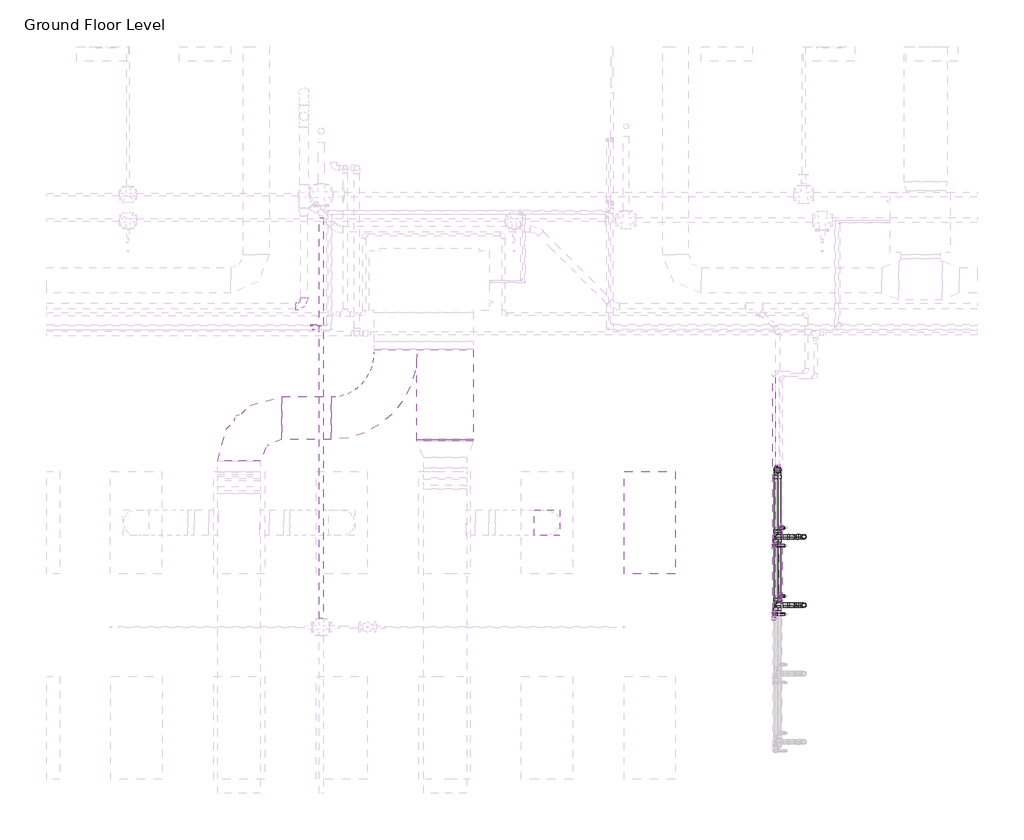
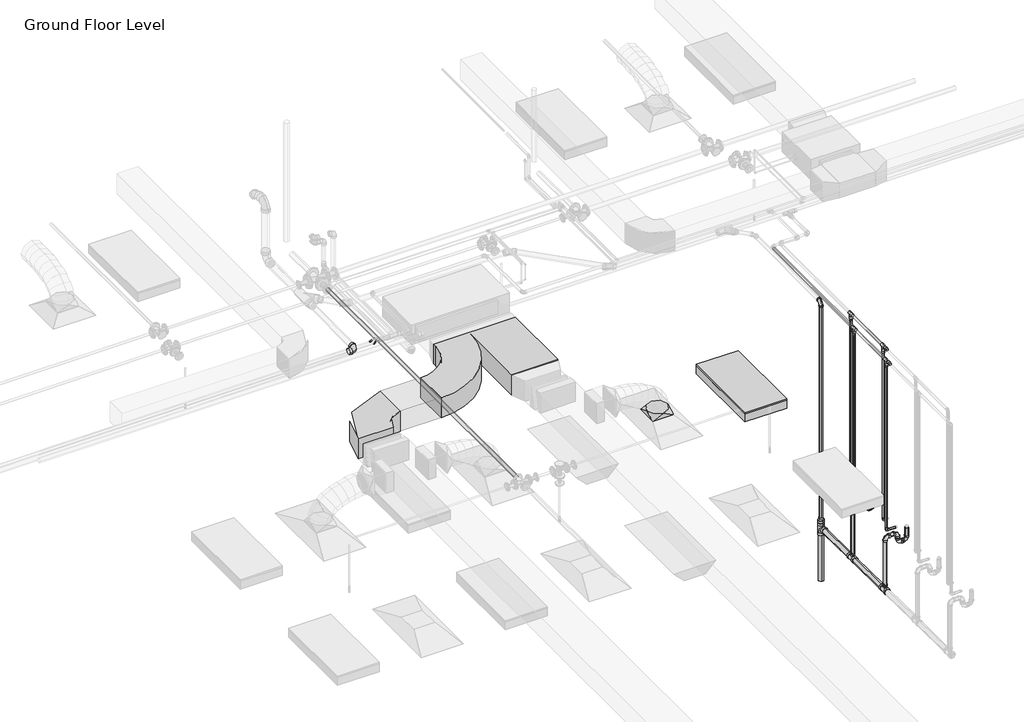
# One storey, part 51 of 74: 32 pipe fittings, 30 pipe segments, 3 duct fittings, 2 duct segments, 1 light fixture.
"""IFC4 building model written with IfcOpenShell, lengths in millimetres."""

from ifc_helpers import new_model, si_unit, point, frame, frame_2d, origin, place, context, project, spatial, polyline, circle_curve, trimmed, segment, composite_curve, outline, extrude, transform, mapped, element, save
from components import m_rectangular_elbow_radius_1_w_abe20169, m_rectangular_wye_smooth_radius_standard_737174da, m_rectangular_to_round_transition_angle_45_degree_641efff0, m_troffer_light_parabolic_rectangular1_0600x1200mm_4_lamp_86473d4a, m_bend_pvc_sch_40_dwv_standard_1e7bdcc1, m_bend_pvc_sch_40_dwv_standard_738aab8b, m_bend_pvc_sch_40_dwv_standard_33e831c1, m_elbow_generic_standard_2a704253, m_elbow_generic_standard_65e6739a, m_reducer_pvc_sch_40_dwv_standard_d6f2da47, m_tee_reducing_sanitary_pvc_sch_40_dwv_standard_21d2848c, m_tee_reducing_sanitary_pvc_sch_40_dwv_standard_b574f8c1, standard_b266ab3f, standard_72b35c3b, standard_e954f56a, standard_e5aa6446

model = new_model("IFC4")

# Units and contexts
model_context = context("Model", 3, world=origin())
ifc_project = project(units=[si_unit("LENGTHUNIT", "METRE", prefix="MILLI")], contexts=[model_context])

# Site, building, storey
site = spatial("IfcSite", under=ifc_project)
building = spatial("IfcBuilding", under=site)
storey = spatial("IfcBuildingStorey", under=building, Name="Ground Floor Level", Elevation=900.0)

# Duct fittings
placement = place(None, origin())
m_rectangular_elbow_radius_1_w_shape = m_rectangular_elbow_radius_1_w_abe20169(model_context)
element("IfcDuctFitting", 1, ObjectType="M_Rectangular Elbow - Radius : 1 W", at=placement, inside=storey, context=model_context, shape_type="MappedRepresentation", body=[
    mapped(m_rectangular_elbow_radius_1_w_shape, transform((-6939.6912607, 12459.4153535, 4107.1399598), x_axis=(-0.9999999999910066, 0.0, 4.2410714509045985e-06), y_axis=(0.0, -1.0, 0.0), z_axis=(4.2410714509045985e-06, 0.0, 0.9999999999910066))),
])
m_rectangular_wye_smooth_radius_standard_shape = m_rectangular_wye_smooth_radius_standard_737174da(model_context)
element("IfcDuctFitting", 2, ObjectType="M_Rectangular Wye - Smooth Radius : Standard", at=placement, inside=storey, context=model_context, shape_type="MappedRepresentation", body=[
    mapped(m_rectangular_wye_smooth_radius_standard_shape, transform((-4653.6910789, 12459.4153535, 4107.1353795), x_axis=(0.0, -0.9999999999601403, -8.928571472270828e-06), y_axis=(1.0, 0.0, 0.0), z_axis=(0.0, -8.928571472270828e-06, 0.9999999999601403))),
])
m_rectangular_to_round_transition_angle_45_degree_shape = m_rectangular_to_round_transition_angle_45_degree_641efff0(model_context)
element("IfcDuctFitting", 3, ObjectType="M_Rectangular to Round Transition - Angle : 45 Degree", at=placement, inside=storey, context=model_context, shape_type="MappedRepresentation", body=[
    mapped(m_rectangular_to_round_transition_angle_45_degree_shape, transform((-3337.2327605, 11235.2153534, 3751.6), x_axis=(0.0, 0.0, 1.0), y_axis=(-1.0, 0.0, 0.0), z_axis=(0.0, -1.0, 0.0))),
])

# Duct segments
element("IfcDuctSegment", 4, ObjectType="Radius Elbows / Taps", at=placement, inside=storey, context=model_context, shape_type="SweptSolid", body=[
    extrude(outline(polyline([(-4859.6910789, 12209.4153535), (-4197.6910789, 12209.4153535), (-4197.6910789, 12192.414605), (-4859.6910789, 12192.414605), (-4859.6910789, 12209.4153535)])), frame((0.0, 0.0, 3957.1331473), z_axis=(0.0, 0.0, 1.0), x_axis=(1.0, 0.0, 0.0)), (0.0, 0.0, 1.0), 300.0),
])
element("IfcDuctSegment", 5, ObjectType="Radius Elbows / Taps", at=placement, inside=storey, context=model_context, shape_type="SweptSolid", body=[
    extrude(outline(polyline([(-5859.6910789, 12709.4153535), (-5859.6910789, 12209.4153535), (-6439.6912607, 12209.4153535), (-6439.6912607, 12709.4153535), (-5859.6910789, 12709.4153535)])), frame((0.0, 0.0, 3957.1353795), z_axis=(0.0, 0.0, 1.0), x_axis=(1.0, 0.0, 0.0)), (0.0, 0.0, 1.0), 300.0),
])

# Light fixture
m_troffer_light_parabolic_rectangular1_0600x1200mm_4_lamp_shape = m_troffer_light_parabolic_rectangular1_0600x1200mm_4_lamp_86473d4a(model_context)
element("IfcLightFixture", 6, ObjectType="M_Troffer Light - Parabolic Rectangular1 : 0600x1200mm(4 Lamp) - 277V 2", at=placement, inside=storey, context=model_context, shape_type="MappedRepresentation", body=[
    mapped(m_troffer_light_parabolic_rectangular1_0600x1200mm_4_lamp_shape, transform((-2196.6986926, 11253.918855, 3650.0), x_axis=(0.0, 1.0, 0.0), y_axis=(-1.0, 0.0, 0.0), z_axis=(0.0, 0.0, 1.0))),
])

# Pipe fittings
m_bend_pvc_sch_40_dwv_standard_shape = m_bend_pvc_sch_40_dwv_standard_1e7bdcc1(model_context)
element("IfcPipeFitting", 7, ObjectType="M_Bend - PVC - Sch 40 - DWV : Standard", at=placement, inside=storey, context=model_context, shape_type="MappedRepresentation", body=[
    mapped(m_bend_pvc_sch_40_dwv_standard_shape, transform((-642.2357232, 11855.5503966, 4093.773994), x_axis=(0.0, 0.0, 1.0), y_axis=(0.0, 1.0, 0.0), z_axis=(-1.0, 0.0, 0.0))),
])
m_bend_pvc_sch_40_dwv_standard_2_shape = m_bend_pvc_sch_40_dwv_standard_738aab8b(model_context)
element("IfcPipeFitting", 8, ObjectType="M_Bend - PVC - Sch 40 - DWV : Standard", at=placement, inside=storey, context=model_context, shape_type="MappedRepresentation", body=[
    mapped(m_bend_pvc_sch_40_dwv_standard_2_shape, transform((-463.6645494, 10271.1979139, 1370.0), x_axis=(-1.0, 0.0, 0.0), y_axis=(0.0, 0.0, 1.0), z_axis=(0.0, 1.0, 0.0))),
])
element("IfcPipeFitting", 9, ObjectType="M_Bend - PVC - Sch 40 - DWV : Standard", at=placement, inside=storey, context=model_context, shape_type="MappedRepresentation", body=[
    mapped(m_bend_pvc_sch_40_dwv_standard_2_shape, transform((-463.6645494, 10271.1979139, 1510.0), x_axis=(0.0, 0.0, 1.0), y_axis=(-1.0, 0.0, 0.0), z_axis=(0.0, -1.0, 0.0))),
])
element("IfcPipeFitting", 10, ObjectType="M_Bend - PVC - Sch 40 - DWV : Standard", at=placement, inside=storey, context=model_context, shape_type="MappedRepresentation", body=[
    mapped(m_bend_pvc_sch_40_dwv_standard_2_shape, transform((-463.6645494, 11071.1979139, 1370.0), x_axis=(-1.0, 0.0, 0.0), y_axis=(0.0, 0.0, 1.0), z_axis=(0.0, 1.0, 0.0))),
])
element("IfcPipeFitting", 11, ObjectType="M_Bend - PVC - Sch 40 - DWV : Standard", at=placement, inside=storey, context=model_context, shape_type="MappedRepresentation", body=[
    mapped(m_bend_pvc_sch_40_dwv_standard_2_shape, transform((-463.6645494, 11071.1979139, 1510.0), x_axis=(0.0, 0.0, 1.0), y_axis=(-1.0, 0.0, 0.0), z_axis=(0.0, -1.0, 0.0))),
])
element("IfcPipeFitting", 12, ObjectType="M_Bend - PVC - Sch 40 - DWV : Standard", at=placement, inside=storey, context=model_context, shape_type="MappedRepresentation", body=[
    mapped(m_bend_pvc_sch_40_dwv_standard_2_shape, transform((-333.6645494, 10271.1979139, 1370.0), x_axis=(1.0, 0.0, 0.0), y_axis=(0.0, 0.0, 1.0), z_axis=(0.0, -1.0, 0.0))),
])
element("IfcPipeFitting", 13, ObjectType="M_Bend - PVC - Sch 40 - DWV : Standard", at=placement, inside=storey, context=model_context, shape_type="MappedRepresentation", body=[
    mapped(m_bend_pvc_sch_40_dwv_standard_2_shape, transform((-333.6645494, 11071.1979139, 1370.0), x_axis=(1.0, 0.0, 0.0), y_axis=(0.0, 0.0, 1.0), z_axis=(0.0, -1.0, 0.0))),
])
element("IfcPipeFitting", 14, ObjectType="M_Bend - PVC - Sch 40 - DWV : Standard", at=placement, inside=storey, context=model_context, shape_type="MappedRepresentation", body=[
    mapped(m_bend_pvc_sch_40_dwv_standard_2_shape, transform((-642.2301761, 10271.1979139, 1510.0), x_axis=(-1.0, 0.0, 0.0), y_axis=(0.0, 0.0, -1.0), z_axis=(0.0, -1.0, 0.0))),
])
element("IfcPipeFitting", 15, ObjectType="M_Bend - PVC - Sch 40 - DWV : Standard", at=placement, inside=storey, context=model_context, shape_type="MappedRepresentation", body=[
    mapped(m_bend_pvc_sch_40_dwv_standard_2_shape, transform((-642.2301761, 11071.1979139, 1510.0), x_axis=(-1.0, 0.0, 0.0), y_axis=(0.0, 0.0, -1.0), z_axis=(0.0, -1.0, 0.0))),
])
m_bend_pvc_sch_40_dwv_standard_3_shape = m_bend_pvc_sch_40_dwv_standard_33e831c1(model_context)
element("IfcPipeFitting", 16, ObjectType="M_Bend - PVC - Sch 40 - DWV : Standard", at=placement, inside=storey, context=model_context, shape_type="MappedRepresentation", body=[
    mapped(m_bend_pvc_sch_40_dwv_standard_3_shape, transform((-6179.174125, 13768.8048932, 4156.9282537), x_axis=(0.9999500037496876, 0.0, 0.00999950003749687), y_axis=(-9.998500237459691e-05, 0.999950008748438, 0.009998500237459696), z_axis=(-0.009999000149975, -0.009999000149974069, 0.9999000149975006))),
])
m_elbow_generic_standard_shape = m_elbow_generic_standard_2a704253(model_context)
element("IfcPipeFitting", 17, ObjectType="M_Elbow - Generic : Standard", at=placement, inside=storey, context=model_context, shape_type="MappedRepresentation", body=[
    mapped(m_elbow_generic_standard_shape, transform((-6064.340603, 13494.0185138, 4393.0), x_axis=(-1.0, 0.0, 0.0), y_axis=(0.0, 0.0, -1.0), z_axis=(0.0, -1.0, 0.0))),
])
element("IfcPipeFitting", 18, ObjectType="M_Elbow - Generic : Standard", at=placement, inside=storey, context=model_context, shape_type="MappedRepresentation", body=[
    mapped(m_elbow_generic_standard_shape, transform((-6064.340603, 13494.0185138, 4365.0), x_axis=(0.0, 0.0, -1.0), y_axis=(-1.0, 0.0, 0.0), z_axis=(0.0, 1.0, 0.0))),
])
m_elbow_generic_standard_2_shape = m_elbow_generic_standard_65e6739a(model_context)
element("IfcPipeFitting", 19, ObjectType="M_Elbow - Generic : Standard", at=placement, inside=storey, context=model_context, shape_type="MappedRepresentation", body=[
    mapped(m_elbow_generic_standard_2_shape, transform((-6100.1387432, 13545.2153534, 4380.0), x_axis=(1.0, 0.0, 0.0), y_axis=(0.0, 0.0, 1.0), z_axis=(0.0, -1.0, 0.0))),
])
element("IfcPipeFitting", 20, ObjectType="M_Elbow - Generic : Standard", at=placement, inside=storey, context=model_context, shape_type="MappedRepresentation", body=[
    mapped(m_elbow_generic_standard_2_shape, transform((-6088.1387432, 13545.2153534, 4392.0), x_axis=(-1.0, 0.0, 0.0), y_axis=(0.0, 0.0, -1.0), z_axis=(0.0, -1.0, 0.0))),
])
m_reducer_pvc_sch_40_dwv_standard_shape = m_reducer_pvc_sch_40_dwv_standard_d6f2da47(model_context)
element("IfcPipeFitting", 21, ObjectType="M_Reducer - PVC - Sch 40 - DWV : Standard", at=placement, inside=storey, context=model_context, shape_type="MappedRepresentation", body=[
    mapped(m_reducer_pvc_sch_40_dwv_standard_shape, transform((-642.2301761, 11855.5442121, 776.9463422), x_axis=(0.0, 0.0, 1.0), y_axis=(0.0, 1.0, 0.0), z_axis=(-1.0, 0.0, 0.0))),
])
m_tee_reducing_sanitary_pvc_sch_40_dwv_standard_shape = m_tee_reducing_sanitary_pvc_sch_40_dwv_standard_21d2848c(model_context)
element("IfcPipeFitting", 22, ObjectType="M_Tee Reducing Sanitary - PVC - Sch 40 - DWV : Standard", at=placement, inside=storey, context=model_context, shape_type="MappedRepresentation", body=[
    mapped(m_tee_reducing_sanitary_pvc_sch_40_dwv_standard_shape, transform((-642.2301761, 10271.1979139, 711.098886), x_axis=(0.0, -0.9999500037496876, 0.009999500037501), y_axis=(0.0, -0.009999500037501, -0.9999500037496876), z_axis=(1.0, 0.0, 0.0))),
])
element("IfcPipeFitting", 23, ObjectType="M_Tee Reducing Sanitary - PVC - Sch 40 - DWV : Standard", at=placement, inside=storey, context=model_context, shape_type="MappedRepresentation", body=[
    mapped(m_tee_reducing_sanitary_pvc_sch_40_dwv_standard_shape, transform((-642.2301761, 11071.1979139, 703.098886), x_axis=(0.0, -0.9999500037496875, 0.00999950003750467), y_axis=(0.0, -0.00999950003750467, -0.9999500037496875), z_axis=(1.0, 0.0, 0.0))),
])
m_tee_reducing_sanitary_pvc_sch_40_dwv_standard_2_shape = m_tee_reducing_sanitary_pvc_sch_40_dwv_standard_b574f8c1(model_context)
element("IfcPipeFitting", 24, ObjectType="M_Tee Reducing Sanitary - PVC - Sch 40 - DWV : Standard", at=placement, inside=storey, context=model_context, shape_type="MappedRepresentation", body=[
    mapped(m_tee_reducing_sanitary_pvc_sch_40_dwv_standard_2_shape, transform((-642.2301761, 11855.5442121, 695.255423), x_axis=(0.0, 0.0, 1.0), y_axis=(0.0, 1.0, 0.0), z_axis=(-1.0, 0.0, 0.0))),
])
standard_shape = standard_b266ab3f(model_context)
element("IfcPipeFitting", 25, ObjectType="M_Elbow - CPVC - Sch 40 : Standard", at=placement, inside=storey, context=model_context, shape_type="MappedRepresentation", body=[
    mapped(standard_shape, transform((-607.2327605, 11175.5128345, 1690.0), x_axis=(-1.0, 0.0, 0.0), y_axis=(0.0, 0.0, 1.0), z_axis=(0.0, 1.0, 0.0))),
])
element("IfcPipeFitting", 26, ObjectType="M_Elbow - CPVC - Sch 40 : Standard", at=placement, inside=storey, context=model_context, shape_type="MappedRepresentation", body=[
    mapped(standard_shape, transform((-607.2327605, 10375.5128345, 1690.0), x_axis=(0.0, 0.0, -1.0), y_axis=(1.0, 0.0, 0.0), z_axis=(0.0, -1.0, 0.0))),
])
element("IfcPipeFitting", 27, ObjectType="M_Elbow - CPVC - Sch 40 : Standard", at=placement, inside=storey, context=model_context, shape_type="MappedRepresentation", body=[
    mapped(standard_shape, transform((-684.0671674, 10166.8829933, 1690.0), x_axis=(-1.0, 0.0, 0.0), y_axis=(0.0, 0.0, 1.0), z_axis=(0.0, 1.0, 0.0))),
])
element("IfcPipeFitting", 28, ObjectType="M_Elbow - CPVC - Sch 40 : Standard", at=placement, inside=storey, context=model_context, shape_type="MappedRepresentation", body=[
    mapped(standard_shape, transform((-684.0671674, 10966.8829933, 1690.0), x_axis=(-1.0, 0.0, 0.0), y_axis=(0.0, 0.0, 1.0), z_axis=(0.0, 1.0, 0.0))),
])
standard_2_shape = standard_72b35c3b(model_context)
element("IfcPipeFitting", 29, ObjectType="M_Tee - CPVC - Sch 40 : Standard", at=placement, inside=storey, context=model_context, shape_type="MappedRepresentation", body=[
    mapped(standard_2_shape, transform((-607.2327605, 11175.5128345, 4315.0), x_axis=(0.0, -1.0, 0.0), y_axis=(0.0, 0.0, 1.0), z_axis=(-1.0, 0.0, 0.0))),
])
element("IfcPipeFitting", 30, ObjectType="M_Tee - CPVC - Sch 40 : Standard", at=placement, inside=storey, context=model_context, shape_type="MappedRepresentation", body=[
    mapped(standard_2_shape, transform((-607.2327605, 10375.5128345, 4315.0), x_axis=(0.0, 1.0, 0.0), y_axis=(0.0, 0.0, 1.0), z_axis=(1.0, 0.0, 0.0))),
])
element("IfcPipeFitting", 31, ObjectType="M_Tee - CPVC - Sch 40 : Standard", at=placement, inside=storey, context=model_context, shape_type="MappedRepresentation", body=[
    mapped(standard_2_shape, transform((-684.0671674, 10166.8829933, 4250.0), x_axis=(0.0, -1.0, 0.0), y_axis=(0.0, 0.0, 1.0), z_axis=(-1.0, 0.0, 0.0))),
])
element("IfcPipeFitting", 32, ObjectType="M_Tee - CPVC - Sch 40 : Standard", at=placement, inside=storey, context=model_context, shape_type="MappedRepresentation", body=[
    mapped(standard_2_shape, transform((-684.0671674, 10966.8829933, 4250.0), x_axis=(0.0, -1.0, 0.0), y_axis=(0.0, 0.0, 1.0), z_axis=(-1.0, 0.0, 0.0))),
])
standard_3_shape = standard_e954f56a(model_context)
element("IfcPipeFitting", 33, ObjectType="M_Coupling Reducing - CPVC - Sch 40 : Standard", at=placement, inside=storey, context=model_context, shape_type="MappedRepresentation", body=[
    mapped(standard_3_shape, transform((-607.2327605, 10335.8126345, 4315.0), x_axis=(0.0, -1.0, 0.0), y_axis=(1.0, 0.0, 0.0), z_axis=(0.0, 0.0, 1.0))),
])
element("IfcPipeFitting", 34, ObjectType="M_Coupling Reducing - CPVC - Sch 40 : Standard", at=placement, inside=storey, context=model_context, shape_type="MappedRepresentation", body=[
    mapped(standard_3_shape, transform((-607.2327605, 10375.5128345, 4275.2998), x_axis=(0.0, 0.0, -1.0), y_axis=(0.0, -1.0, 0.0), z_axis=(-1.0, 0.0, 0.0))),
])
element("IfcPipeFitting", 35, ObjectType="M_Coupling Reducing - CPVC - Sch 40 : Standard", at=placement, inside=storey, context=model_context, shape_type="MappedRepresentation", body=[
    mapped(standard_3_shape, transform((-684.0671674, 10166.8829933, 4210.2998), x_axis=(0.0, 0.0, -1.0), y_axis=(-1.0, 0.0, 0.0), z_axis=(0.0, 1.0, 0.0))),
])
element("IfcPipeFitting", 36, ObjectType="M_Coupling Reducing - CPVC - Sch 40 : Standard", at=placement, inside=storey, context=model_context, shape_type="MappedRepresentation", body=[
    mapped(standard_3_shape, transform((-684.0671674, 10966.8829933, 4210.2998), x_axis=(0.0, 0.0, -1.0), y_axis=(-1.0, 0.0, 0.0), z_axis=(0.0, 1.0, 0.0))),
])
standard_4_shape = standard_e5aa6446(model_context)
element("IfcPipeFitting", 37, ObjectType="M_Coupling Reducing - CPVC - Sch 40 : Standard", at=placement, inside=storey, context=model_context, shape_type="MappedRepresentation", body=[
    mapped(standard_4_shape, transform((-607.2327605, 11175.5128345, 4275.2998), x_axis=(0.0, 0.0, -1.0), y_axis=(1.0, 0.0, 0.0), z_axis=(0.0, -1.0, 0.0))),
])
element("IfcPipeFitting", 38, ObjectType="M_Coupling Reducing - CPVC - Sch 40 : Standard", at=placement, inside=storey, context=model_context, shape_type="MappedRepresentation", body=[
    mapped(standard_4_shape, transform((-684.0671674, 10127.1827933, 4250.0), x_axis=(0.0, -1.0, 0.0), y_axis=(1.0, 0.0, 0.0), z_axis=(0.0, 0.0, 1.0))),
])

# Pipe segments
element("IfcPipeSegment", 39, ObjectType="CPVC", at=placement, inside=storey, context=model_context, shape_type="SweptSolid", body=[
    extrude(outline(composite_curve([segment(trimmed(circle_curve(frame_2d((11175.5128345, 1690.0)), 13.335), [point((11188.8478345, 1690.0))], [point((11175.5128345, 1676.665))], False, "CARTESIAN"), True, "CONTINUOUS"), segment(trimmed(circle_curve(frame_2d((11175.5128345, 1690.0)), 13.335), [point((11175.5128345, 1676.665))], [point((11162.1778345, 1690.0))], False, "CARTESIAN"), True, "CONTINUOUS"), segment(trimmed(circle_curve(frame_2d((11175.5128345, 1690.0)), 13.335), [point((11162.1778345, 1690.0))], [point((11175.5128345, 1703.335))], False, "CARTESIAN"), True, "CONTINUOUS"), segment(trimmed(circle_curve(frame_2d((11175.5128345, 1690.0)), 13.335), [point((11175.5128345, 1703.335))], [point((11188.8478345, 1690.0))], False, "CARTESIAN"), True, "CONTINUOUS")], self_intersect=False)), frame((-571.9077105, 0.0, 0.0), z_axis=(1.0, 0.0, 0.0), x_axis=(0.0, 1.0, 0.0)), (0.0, 0.0, 1.0), 14.67495),
])
element("IfcPipeSegment", 40, ObjectType="CPVC", at=placement, inside=storey, context=model_context, shape_type="SweptSolid", body=[
    extrude(outline(composite_curve([segment(trimmed(circle_curve(frame_2d((-607.2327605, 11175.5128345)), 13.335), [point((-620.5677605, 11175.5128345))], [point((-607.2327605, 11188.8478345))], False, "CARTESIAN"), True, "CONTINUOUS"), segment(trimmed(circle_curve(frame_2d((-607.2327605, 11175.5128345)), 13.335), [point((-607.2327605, 11188.8478345))], [point((-593.8977605, 11175.5128345))], False, "CARTESIAN"), True, "CONTINUOUS"), segment(trimmed(circle_curve(frame_2d((-607.2327605, 11175.5128345)), 13.335), [point((-593.8977605, 11175.5128345))], [point((-607.2327605, 11162.1778345))], False, "CARTESIAN"), True, "CONTINUOUS"), segment(trimmed(circle_curve(frame_2d((-607.2327605, 11175.5128345)), 13.335), [point((-607.2327605, 11162.1778345))], [point((-620.5677605, 11175.5128345))], False, "CARTESIAN"), True, "CONTINUOUS")], self_intersect=False)), frame((0.0, 0.0, 1725.32505), z_axis=(0.0, 0.0, 1.0), x_axis=(1.0, 0.0, 0.0)), (0.0, 0.0, 1.0), 2492.82475),
])
element("IfcPipeSegment", 41, ObjectType="CPVC", at=placement, inside=storey, context=model_context, shape_type="SweptSolid", body=[
    extrude(outline(composite_curve([segment(trimmed(circle_curve(frame_2d((10375.5128345, 1690.0)), 13.335), [point((10362.1778345, 1690.0))], [point((10375.5128345, 1703.335))], False, "CARTESIAN"), True, "CONTINUOUS"), segment(trimmed(circle_curve(frame_2d((10375.5128345, 1690.0)), 13.335), [point((10375.5128345, 1703.335))], [point((10388.8478345, 1690.0))], False, "CARTESIAN"), True, "CONTINUOUS"), segment(trimmed(circle_curve(frame_2d((10375.5128345, 1690.0)), 13.335), [point((10388.8478345, 1690.0))], [point((10375.5128345, 1676.665))], False, "CARTESIAN"), True, "CONTINUOUS"), segment(trimmed(circle_curve(frame_2d((10375.5128345, 1690.0)), 13.335), [point((10375.5128345, 1676.665))], [point((10362.1778345, 1690.0))], False, "CARTESIAN"), True, "CONTINUOUS")], self_intersect=False)), frame((-571.9077105, 0.0, 0.0), z_axis=(1.0, 0.0, 0.0), x_axis=(0.0, 1.0, 0.0)), (0.0, 0.0, 1.0), 14.67495),
])
element("IfcPipeSegment", 42, ObjectType="CPVC", at=placement, inside=storey, context=model_context, shape_type="SweptSolid", body=[
    extrude(outline(composite_curve([segment(trimmed(circle_curve(frame_2d((-607.2327605, 10375.5128345)), 13.335), [point((-593.8977605, 10375.5128345))], [point((-607.2327605, 10362.1778345))], False, "CARTESIAN"), True, "CONTINUOUS"), segment(trimmed(circle_curve(frame_2d((-607.2327605, 10375.5128345)), 13.335), [point((-607.2327605, 10362.1778345))], [point((-620.5677605, 10375.5128345))], False, "CARTESIAN"), True, "CONTINUOUS"), segment(trimmed(circle_curve(frame_2d((-607.2327605, 10375.5128345)), 13.335), [point((-620.5677605, 10375.5128345))], [point((-607.2327605, 10388.8478345))], False, "CARTESIAN"), True, "CONTINUOUS"), segment(trimmed(circle_curve(frame_2d((-607.2327605, 10375.5128345)), 13.335), [point((-607.2327605, 10388.8478345))], [point((-593.8977605, 10375.5128345))], False, "CARTESIAN"), True, "CONTINUOUS")], self_intersect=False)), frame((0.0, 0.0, 1725.32505), z_axis=(0.0, 0.0, 1.0), x_axis=(1.0, 0.0, 0.0)), (0.0, 0.0, 1.0), 2492.82475),
])
element("IfcPipeSegment", 43, ObjectType="CPVC", at=placement, inside=storey, context=model_context, shape_type="SweptSolid", body=[
    extrude(outline(composite_curve([segment(trimmed(circle_curve(frame_2d((4315.0, -607.2327605)), 16.7005), [point((4315.0, -623.9332605))], [point((4298.2995, -607.2327605))], False, "CARTESIAN"), True, "CONTINUOUS"), segment(trimmed(circle_curve(frame_2d((4315.0, -607.2327605)), 16.7005), [point((4298.2995, -607.2327605))], [point((4315.0, -590.5322605))], False, "CARTESIAN"), True, "CONTINUOUS"), segment(trimmed(circle_curve(frame_2d((4315.0, -607.2327605)), 16.7005), [point((4315.0, -590.5322605))], [point((4331.7005, -607.2327605))], False, "CARTESIAN"), True, "CONTINUOUS"), segment(trimmed(circle_curve(frame_2d((4315.0, -607.2327605)), 16.7005), [point((4331.7005, -607.2327605))], [point((4315.0, -623.9332605))], False, "CARTESIAN"), True, "CONTINUOUS")], self_intersect=False)), frame((0.0, 10415.2130345, 0.0), z_axis=(0.0, 1.0, 0.0), x_axis=(0.0, 0.0, 1.0)), (0.0, 0.0, 1.0), 720.5996),
])
element("IfcPipeSegment", 44, ObjectType="CPVC", at=placement, inside=storey, context=model_context, shape_type="SweptSolid", body=[
    extrude(outline(composite_curve([segment(trimmed(circle_curve(frame_2d((10166.8829933, 1690.0)), 13.335), [point((10180.2179933, 1690.0))], [point((10166.8829933, 1676.665))], False, "CARTESIAN"), True, "CONTINUOUS"), segment(trimmed(circle_curve(frame_2d((10166.8829933, 1690.0)), 13.335), [point((10166.8829933, 1676.665))], [point((10153.5479933, 1690.0))], False, "CARTESIAN"), True, "CONTINUOUS"), segment(trimmed(circle_curve(frame_2d((10166.8829933, 1690.0)), 13.335), [point((10153.5479933, 1690.0))], [point((10166.8829933, 1703.335))], False, "CARTESIAN"), True, "CONTINUOUS"), segment(trimmed(circle_curve(frame_2d((10166.8829933, 1690.0)), 13.335), [point((10166.8829933, 1703.335))], [point((10180.2179933, 1690.0))], False, "CARTESIAN"), True, "CONTINUOUS")], self_intersect=False)), frame((-648.7421174, 0.0, 0.0), z_axis=(1.0, 0.0, 0.0), x_axis=(0.0, 1.0, 0.0)), (0.0, 0.0, 1.0), 91.5093569),
])
element("IfcPipeSegment", 45, ObjectType="CPVC", at=placement, inside=storey, context=model_context, shape_type="SweptSolid", body=[
    extrude(outline(composite_curve([segment(trimmed(circle_curve(frame_2d((-684.0671674, 10166.8829933)), 13.335), [point((-697.4021674, 10166.8829933))], [point((-684.0671674, 10180.2179933))], False, "CARTESIAN"), True, "CONTINUOUS"), segment(trimmed(circle_curve(frame_2d((-684.0671674, 10166.8829933)), 13.335), [point((-684.0671674, 10180.2179933))], [point((-670.7321674, 10166.8829933))], False, "CARTESIAN"), True, "CONTINUOUS"), segment(trimmed(circle_curve(frame_2d((-684.0671674, 10166.8829933)), 13.335), [point((-670.7321674, 10166.8829933))], [point((-684.0671674, 10153.5479933))], False, "CARTESIAN"), True, "CONTINUOUS"), segment(trimmed(circle_curve(frame_2d((-684.0671674, 10166.8829933)), 13.335), [point((-684.0671674, 10153.5479933))], [point((-697.4021674, 10166.8829933))], False, "CARTESIAN"), True, "CONTINUOUS")], self_intersect=False)), frame((0.0, 0.0, 1725.32505), z_axis=(0.0, 0.0, 1.0), x_axis=(1.0, 0.0, 0.0)), (0.0, 0.0, 1.0), 2427.82475),
])
element("IfcPipeSegment", 46, ObjectType="CPVC", at=placement, inside=storey, context=model_context, shape_type="SweptSolid", body=[
    extrude(outline(composite_curve([segment(trimmed(circle_curve(frame_2d((10966.8829933, 1690.0)), 13.335), [point((10980.2179933, 1690.0))], [point((10966.8829933, 1676.665))], False, "CARTESIAN"), True, "CONTINUOUS"), segment(trimmed(circle_curve(frame_2d((10966.8829933, 1690.0)), 13.335), [point((10966.8829933, 1676.665))], [point((10953.5479933, 1690.0))], False, "CARTESIAN"), True, "CONTINUOUS"), segment(trimmed(circle_curve(frame_2d((10966.8829933, 1690.0)), 13.335), [point((10953.5479933, 1690.0))], [point((10966.8829933, 1703.335))], False, "CARTESIAN"), True, "CONTINUOUS"), segment(trimmed(circle_curve(frame_2d((10966.8829933, 1690.0)), 13.335), [point((10966.8829933, 1703.335))], [point((10980.2179933, 1690.0))], False, "CARTESIAN"), True, "CONTINUOUS")], self_intersect=False)), frame((-648.7421174, 0.0, 0.0), z_axis=(1.0, 0.0, 0.0), x_axis=(0.0, 1.0, 0.0)), (0.0, 0.0, 1.0), 91.5093569),
])
element("IfcPipeSegment", 47, ObjectType="CPVC", at=placement, inside=storey, context=model_context, shape_type="SweptSolid", body=[
    extrude(outline(composite_curve([segment(trimmed(circle_curve(frame_2d((-684.0671674, 10966.8829933)), 13.335), [point((-697.4021674, 10966.8829933))], [point((-684.0671674, 10980.2179933))], False, "CARTESIAN"), True, "CONTINUOUS"), segment(trimmed(circle_curve(frame_2d((-684.0671674, 10966.8829933)), 13.335), [point((-684.0671674, 10980.2179933))], [point((-670.7321674, 10966.8829933))], False, "CARTESIAN"), True, "CONTINUOUS"), segment(trimmed(circle_curve(frame_2d((-684.0671674, 10966.8829933)), 13.335), [point((-670.7321674, 10966.8829933))], [point((-684.0671674, 10953.5479933))], False, "CARTESIAN"), True, "CONTINUOUS"), segment(trimmed(circle_curve(frame_2d((-684.0671674, 10966.8829933)), 13.335), [point((-684.0671674, 10953.5479933))], [point((-697.4021674, 10966.8829933))], False, "CARTESIAN"), True, "CONTINUOUS")], self_intersect=False)), frame((0.0, 0.0, 1725.32505), z_axis=(0.0, 0.0, 1.0), x_axis=(1.0, 0.0, 0.0)), (0.0, 0.0, 1.0), 2427.82475),
])
element("IfcPipeSegment", 48, ObjectType="CPVC", at=placement, inside=storey, context=model_context, shape_type="SweptSolid", body=[
    extrude(outline(composite_curve([segment(trimmed(circle_curve(frame_2d((4250.0, -684.0671674)), 16.7005), [point((4250.0, -667.3666674))], [point((4266.7005, -684.0671674))], False, "CARTESIAN"), True, "CONTINUOUS"), segment(trimmed(circle_curve(frame_2d((4250.0, -684.0671674)), 16.7005), [point((4266.7005, -684.0671674))], [point((4250.0, -700.7676674))], False, "CARTESIAN"), True, "CONTINUOUS"), segment(trimmed(circle_curve(frame_2d((4250.0, -684.0671674)), 16.7005), [point((4250.0, -700.7676674))], [point((4233.2995, -684.0671674))], False, "CARTESIAN"), True, "CONTINUOUS"), segment(trimmed(circle_curve(frame_2d((4250.0, -684.0671674)), 16.7005), [point((4233.2995, -684.0671674))], [point((4250.0, -667.3666674))], False, "CARTESIAN"), True, "CONTINUOUS")], self_intersect=False)), frame((0.0, 11006.5831933, 0.0), z_axis=(0.0, 1.0, 0.0), x_axis=(0.0, 0.0, 1.0)), (0.0, 0.0, 1.0), 1945.3696101),
])
element("IfcPipeSegment", 49, ObjectType="CPVC", at=placement, inside=storey, context=model_context, shape_type="SweptSolid", body=[
    extrude(outline(composite_curve([segment(trimmed(circle_curve(frame_2d((4250.0, -684.0671674)), 16.7005), [point((4250.0, -667.3666674))], [point((4266.7005, -684.0671674))], False, "CARTESIAN"), True, "CONTINUOUS"), segment(trimmed(circle_curve(frame_2d((4250.0, -684.0671674)), 16.7005), [point((4266.7005, -684.0671674))], [point((4250.0, -700.7676674))], False, "CARTESIAN"), True, "CONTINUOUS"), segment(trimmed(circle_curve(frame_2d((4250.0, -684.0671674)), 16.7005), [point((4250.0, -700.7676674))], [point((4233.2995, -684.0671674))], False, "CARTESIAN"), True, "CONTINUOUS"), segment(trimmed(circle_curve(frame_2d((4250.0, -684.0671674)), 16.7005), [point((4233.2995, -684.0671674))], [point((4250.0, -667.3666674))], False, "CARTESIAN"), True, "CONTINUOUS")], self_intersect=False)), frame((0.0, 10206.5831933, 0.0), z_axis=(0.0, 1.0, 0.0), x_axis=(0.0, 0.0, 1.0)), (0.0, 0.0, 1.0), 720.5996),
])
element("IfcPipeSegment", 50, ObjectType="Copper", at=placement, inside=storey, context=model_context, shape_type="SweptSolid", body=[
    extrude(outline(composite_curve([segment(trimmed(circle_curve(frame_2d((13545.2153534, 4392.0)), 6.5), [point((13538.7153534, 4392.0))], [point((13545.2153534, 4398.5))], False, "CARTESIAN"), True, "CONTINUOUS"), segment(trimmed(circle_curve(frame_2d((13545.2153534, 4392.0)), 6.5), [point((13545.2153534, 4398.5))], [point((13551.7153534, 4392.0))], False, "CARTESIAN"), True, "CONTINUOUS"), segment(trimmed(circle_curve(frame_2d((13545.2153534, 4392.0)), 6.5), [point((13551.7153534, 4392.0))], [point((13545.2153534, 4385.5))], False, "CARTESIAN"), True, "CONTINUOUS"), segment(trimmed(circle_curve(frame_2d((13545.2153534, 4392.0)), 6.5), [point((13545.2153534, 4385.5))], [point((13538.7153534, 4392.0))], False, "CARTESIAN"), True, "CONTINUOUS")], self_intersect=False)), frame((-6082.220667, 0.0, 0.0), z_axis=(1.0, 0.0, 0.0), x_axis=(0.0, 1.0, 0.0)), (0.0, 0.0, 1.0), 114.8979305),
])
element("IfcPipeSegment", 51, ObjectType="Copper", at=placement, inside=storey, context=model_context, shape_type="SweptSolid", body=[
    extrude(outline(composite_curve([segment(trimmed(circle_curve(frame_2d((-6064.340603, 13494.0185138)), 3.35), [point((-6060.990603, 13494.0185138))], [point((-6064.340603, 13490.6685138))], False, "CARTESIAN"), True, "CONTINUOUS"), segment(trimmed(circle_curve(frame_2d((-6064.340603, 13494.0185138)), 3.35), [point((-6064.340603, 13490.6685138))], [point((-6067.690603, 13494.0185138))], False, "CARTESIAN"), True, "CONTINUOUS"), segment(trimmed(circle_curve(frame_2d((-6064.340603, 13494.0185138)), 3.35), [point((-6067.690603, 13494.0185138))], [point((-6064.340603, 13497.3685138))], False, "CARTESIAN"), True, "CONTINUOUS"), segment(trimmed(circle_curve(frame_2d((-6064.340603, 13494.0185138)), 3.35), [point((-6064.340603, 13497.3685138))], [point((-6060.990603, 13494.0185138))], False, "CARTESIAN"), True, "CONTINUOUS")], self_intersect=False)), frame((0.0, 0.0, 4376.1375), z_axis=(0.0, 0.0, 1.0), x_axis=(1.0, 0.0, 0.0)), (0.0, 0.0, 1.0), 5.725),
])
element("IfcPipeSegment", 52, ObjectType="Copper", at=placement, inside=storey, context=model_context, shape_type="SweptSolid", body=[
    extrude(outline(composite_curve([segment(trimmed(circle_curve(frame_2d((0.0, 6.5)), 6.5), [point((0.0, 0.0))], [point((-6.5, 6.5))], False, "CARTESIAN"), True, "CONTINUOUS"), segment(trimmed(circle_curve(frame_2d((0.0, 6.5)), 6.5), [point((-6.5, 6.5))], [point((0.0, 13.0))], False, "CARTESIAN"), True, "CONTINUOUS"), segment(trimmed(circle_curve(frame_2d((0.0, 6.5)), 6.5), [point((0.0, 13.0))], [point((6.5, 6.5))], False, "CARTESIAN"), True, "CONTINUOUS"), segment(trimmed(circle_curve(frame_2d((0.0, 6.5)), 6.5), [point((6.5, 6.5))], [point((0.0, 0.0))], False, "CARTESIAN"), True, "CONTINUOUS")], self_intersect=False)), frame((-6095.9540314, 13538.7153534, 4384.1847119), z_axis=(0.7071067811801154, 0.0, 0.7071067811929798), x_axis=(0.7071067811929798, 0.0, -0.7071067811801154)), (0.0, 0.0, 1.0), 5.1344102),
])
element("IfcPipeSegment", 53, ObjectType="PVC - DWV", at=placement, inside=storey, context=model_context, shape_type="SweptSolid", body=[
    extrude(outline(composite_curve([segment(trimmed(circle_curve(frame_2d((0.0, -36.5125)), 36.5125), [point((36.5125, -36.5125))], [point((0.0, -73.025))], False, "CARTESIAN"), True, "CONTINUOUS"), segment(trimmed(circle_curve(frame_2d((0.0, -36.5125)), 36.5125), [point((0.0, -73.025))], [point((-36.5125, -36.5125))], False, "CARTESIAN"), True, "CONTINUOUS"), segment(trimmed(circle_curve(frame_2d((0.0, -36.5125)), 36.5125), [point((-36.5125, -36.5125))], [point((0.0, 0.0))], False, "CARTESIAN"), True, "CONTINUOUS"), segment(trimmed(circle_curve(frame_2d((0.0, -36.5125)), 36.5125), [point((0.0, 0.0))], [point((36.5125, -36.5125))], False, "CARTESIAN"), True, "CONTINUOUS")], self_intersect=False)), frame((-642.2301761, 11755.9463482, 732.7657272), z_axis=(0.0, -0.9999500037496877, 0.009999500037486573), x_axis=(1.0, 0.0, 0.0)), (0.0, 0.0, 1.0), 605.3544271),
])
element("IfcPipeSegment", 54, ObjectType="PVC - DWV", at=placement, inside=storey, context=model_context, shape_type="SweptSolid", body=[
    extrude(outline(composite_curve([segment(trimmed(circle_curve(frame_2d((-333.6645494, 10271.1979139)), 24.13), [point((-357.7945494, 10271.1979139))], [point((-333.6645494, 10295.3279139))], False, "CARTESIAN"), True, "CONTINUOUS"), segment(trimmed(circle_curve(frame_2d((-333.6645494, 10271.1979139)), 24.13), [point((-333.6645494, 10295.3279139))], [point((-309.5345494, 10271.1979139))], False, "CARTESIAN"), True, "CONTINUOUS"), segment(trimmed(circle_curve(frame_2d((-333.6645494, 10271.1979139)), 24.13), [point((-309.5345494, 10271.1979139))], [point((-333.6645494, 10247.0679139))], False, "CARTESIAN"), True, "CONTINUOUS"), segment(trimmed(circle_curve(frame_2d((-333.6645494, 10271.1979139)), 24.13), [point((-333.6645494, 10247.0679139))], [point((-357.7945494, 10271.1979139))], False, "CARTESIAN"), True, "CONTINUOUS")], self_intersect=False)), frame((0.0, 0.0, 1431.8998), z_axis=(0.0, 0.0, 1.0), x_axis=(1.0, 0.0, 0.0)), (0.0, 0.0, 1.0), 118.1002),
])
element("IfcPipeSegment", 55, ObjectType="PVC - DWV", at=placement, inside=storey, context=model_context, shape_type="SweptSolid", body=[
    extrude(outline(composite_curve([segment(trimmed(circle_curve(frame_2d((10271.1979139, 1370.0)), 24.13), [point((10295.3279139, 1370.0))], [point((10271.1979139, 1345.87))], False, "CARTESIAN"), True, "CONTINUOUS"), segment(trimmed(circle_curve(frame_2d((10271.1979139, 1370.0)), 24.13), [point((10271.1979139, 1345.87))], [point((10247.0679139, 1370.0))], False, "CARTESIAN"), True, "CONTINUOUS"), segment(trimmed(circle_curve(frame_2d((10271.1979139, 1370.0)), 24.13), [point((10247.0679139, 1370.0))], [point((10271.1979139, 1394.13))], False, "CARTESIAN"), True, "CONTINUOUS"), segment(trimmed(circle_curve(frame_2d((10271.1979139, 1370.0)), 24.13), [point((10271.1979139, 1394.13))], [point((10295.3279139, 1370.0))], False, "CARTESIAN"), True, "CONTINUOUS")], self_intersect=False)), frame((-401.7647494, 0.0, 0.0), z_axis=(1.0, 0.0, 0.0), x_axis=(0.0, 1.0, 0.0)), (0.0, 0.0, 1.0), 6.2004),
])
element("IfcPipeSegment", 56, ObjectType="PVC - DWV", at=placement, inside=storey, context=model_context, shape_type="SweptSolid", body=[
    extrude(outline(composite_curve([segment(trimmed(circle_curve(frame_2d((-463.6645494, 10271.1979139)), 24.13), [point((-487.7945494, 10271.1979139))], [point((-463.6645494, 10295.3279139))], False, "CARTESIAN"), True, "CONTINUOUS"), segment(trimmed(circle_curve(frame_2d((-463.6645494, 10271.1979139)), 24.13), [point((-463.6645494, 10295.3279139))], [point((-439.5345494, 10271.1979139))], False, "CARTESIAN"), True, "CONTINUOUS"), segment(trimmed(circle_curve(frame_2d((-463.6645494, 10271.1979139)), 24.13), [point((-439.5345494, 10271.1979139))], [point((-463.6645494, 10247.0679139))], False, "CARTESIAN"), True, "CONTINUOUS"), segment(trimmed(circle_curve(frame_2d((-463.6645494, 10271.1979139)), 24.13), [point((-463.6645494, 10247.0679139))], [point((-487.7945494, 10271.1979139))], False, "CARTESIAN"), True, "CONTINUOUS")], self_intersect=False)), frame((0.0, 0.0, 1431.8998), z_axis=(0.0, 0.0, 1.0), x_axis=(1.0, 0.0, 0.0)), (0.0, 0.0, 1.0), 16.2004),
])
element("IfcPipeSegment", 57, ObjectType="PVC - DWV", at=placement, inside=storey, context=model_context, shape_type="SweptSolid", body=[
    extrude(outline(composite_curve([segment(trimmed(circle_curve(frame_2d((10271.1979139, 1510.0)), 24.13), [point((10295.3279139, 1510.0))], [point((10271.1979139, 1485.87))], False, "CARTESIAN"), True, "CONTINUOUS"), segment(trimmed(circle_curve(frame_2d((10271.1979139, 1510.0)), 24.13), [point((10271.1979139, 1485.87))], [point((10247.0679139, 1510.0))], False, "CARTESIAN"), True, "CONTINUOUS"), segment(trimmed(circle_curve(frame_2d((10271.1979139, 1510.0)), 24.13), [point((10247.0679139, 1510.0))], [point((10271.1979139, 1534.13))], False, "CARTESIAN"), True, "CONTINUOUS"), segment(trimmed(circle_curve(frame_2d((10271.1979139, 1510.0)), 24.13), [point((10271.1979139, 1534.13))], [point((10295.3279139, 1510.0))], False, "CARTESIAN"), True, "CONTINUOUS")], self_intersect=False)), frame((-580.3303761, 0.0, 0.0), z_axis=(1.0, 0.0, 0.0), x_axis=(0.0, 1.0, 0.0)), (0.0, 0.0, 1.0), 54.7660268),
])
element("IfcPipeSegment", 58, ObjectType="PVC - DWV", at=placement, inside=storey, context=model_context, shape_type="SweptSolid", body=[
    extrude(outline(composite_curve([segment(trimmed(circle_curve(frame_2d((-642.2301761, 10271.1979139)), 24.13), [point((-666.3601761, 10271.1979139))], [point((-642.2301761, 10295.3279139))], False, "CARTESIAN"), True, "CONTINUOUS"), segment(trimmed(circle_curve(frame_2d((-642.2301761, 10271.1979139)), 24.13), [point((-642.2301761, 10295.3279139))], [point((-618.1001761, 10271.1979139))], False, "CARTESIAN"), True, "CONTINUOUS"), segment(trimmed(circle_curve(frame_2d((-642.2301761, 10271.1979139)), 24.13), [point((-618.1001761, 10271.1979139))], [point((-642.2301761, 10247.0679139))], False, "CARTESIAN"), True, "CONTINUOUS"), segment(trimmed(circle_curve(frame_2d((-642.2301761, 10271.1979139)), 24.13), [point((-642.2301761, 10247.0679139))], [point((-666.3601761, 10271.1979139))], False, "CARTESIAN"), True, "CONTINUOUS")], self_intersect=False)), frame((0.0, 0.0, 791.9463422), z_axis=(0.0, 0.0, 1.0), x_axis=(1.0, 0.0, 0.0)), (0.0, 0.0, 1.0), 656.1538578),
])
element("IfcPipeSegment", 59, ObjectType="PVC - DWV", at=placement, inside=storey, context=model_context, shape_type="SweptSolid", body=[
    extrude(outline(composite_curve([segment(trimmed(circle_curve(frame_2d((-333.6645494, 11071.1979139)), 24.13), [point((-309.5345494, 11071.1979139))], [point((-333.6645494, 11047.0679139))], False, "CARTESIAN"), True, "CONTINUOUS"), segment(trimmed(circle_curve(frame_2d((-333.6645494, 11071.1979139)), 24.13), [point((-333.6645494, 11047.0679139))], [point((-357.7945494, 11071.1979139))], False, "CARTESIAN"), True, "CONTINUOUS"), segment(trimmed(circle_curve(frame_2d((-333.6645494, 11071.1979139)), 24.13), [point((-357.7945494, 11071.1979139))], [point((-333.6645494, 11095.3279139))], False, "CARTESIAN"), True, "CONTINUOUS"), segment(trimmed(circle_curve(frame_2d((-333.6645494, 11071.1979139)), 24.13), [point((-333.6645494, 11095.3279139))], [point((-309.5345494, 11071.1979139))], False, "CARTESIAN"), True, "CONTINUOUS")], self_intersect=False)), frame((0.0, 0.0, 1431.8998), z_axis=(0.0, 0.0, 1.0), x_axis=(1.0, 0.0, 0.0)), (0.0, 0.0, 1.0), 118.1002),
])
element("IfcPipeSegment", 60, ObjectType="PVC - DWV", at=placement, inside=storey, context=model_context, shape_type="SweptSolid", body=[
    extrude(outline(composite_curve([segment(trimmed(circle_curve(frame_2d((11071.1979139, 1370.0)), 24.13), [point((11095.3279139, 1370.0))], [point((11071.1979139, 1345.87))], False, "CARTESIAN"), True, "CONTINUOUS"), segment(trimmed(circle_curve(frame_2d((11071.1979139, 1370.0)), 24.13), [point((11071.1979139, 1345.87))], [point((11047.0679139, 1370.0))], False, "CARTESIAN"), True, "CONTINUOUS"), segment(trimmed(circle_curve(frame_2d((11071.1979139, 1370.0)), 24.13), [point((11047.0679139, 1370.0))], [point((11071.1979139, 1394.13))], False, "CARTESIAN"), True, "CONTINUOUS"), segment(trimmed(circle_curve(frame_2d((11071.1979139, 1370.0)), 24.13), [point((11071.1979139, 1394.13))], [point((11095.3279139, 1370.0))], False, "CARTESIAN"), True, "CONTINUOUS")], self_intersect=False)), frame((-401.7647494, 0.0, 0.0), z_axis=(1.0, 0.0, 0.0), x_axis=(0.0, 1.0, 0.0)), (0.0, 0.0, 1.0), 6.2004),
])
element("IfcPipeSegment", 61, ObjectType="PVC - DWV", at=placement, inside=storey, context=model_context, shape_type="SweptSolid", body=[
    extrude(outline(composite_curve([segment(trimmed(circle_curve(frame_2d((-463.6645494, 11071.1979139)), 24.13), [point((-487.7945494, 11071.1979139))], [point((-463.6645494, 11095.3279139))], False, "CARTESIAN"), True, "CONTINUOUS"), segment(trimmed(circle_curve(frame_2d((-463.6645494, 11071.1979139)), 24.13), [point((-463.6645494, 11095.3279139))], [point((-439.5345494, 11071.1979139))], False, "CARTESIAN"), True, "CONTINUOUS"), segment(trimmed(circle_curve(frame_2d((-463.6645494, 11071.1979139)), 24.13), [point((-439.5345494, 11071.1979139))], [point((-463.6645494, 11047.0679139))], False, "CARTESIAN"), True, "CONTINUOUS"), segment(trimmed(circle_curve(frame_2d((-463.6645494, 11071.1979139)), 24.13), [point((-463.6645494, 11047.0679139))], [point((-487.7945494, 11071.1979139))], False, "CARTESIAN"), True, "CONTINUOUS")], self_intersect=False)), frame((0.0, 0.0, 1431.8998), z_axis=(0.0, 0.0, 1.0), x_axis=(1.0, 0.0, 0.0)), (0.0, 0.0, 1.0), 16.2004),
])
element("IfcPipeSegment", 62, ObjectType="PVC - DWV", at=placement, inside=storey, context=model_context, shape_type="SweptSolid", body=[
    extrude(outline(composite_curve([segment(trimmed(circle_curve(frame_2d((11071.1979139, 1510.0)), 24.13), [point((11095.3279139, 1510.0))], [point((11071.1979139, 1485.87))], False, "CARTESIAN"), True, "CONTINUOUS"), segment(trimmed(circle_curve(frame_2d((11071.1979139, 1510.0)), 24.13), [point((11071.1979139, 1485.87))], [point((11047.0679139, 1510.0))], False, "CARTESIAN"), True, "CONTINUOUS"), segment(trimmed(circle_curve(frame_2d((11071.1979139, 1510.0)), 24.13), [point((11047.0679139, 1510.0))], [point((11071.1979139, 1534.13))], False, "CARTESIAN"), True, "CONTINUOUS"), segment(trimmed(circle_curve(frame_2d((11071.1979139, 1510.0)), 24.13), [point((11071.1979139, 1534.13))], [point((11095.3279139, 1510.0))], False, "CARTESIAN"), True, "CONTINUOUS")], self_intersect=False)), frame((-580.3303761, 0.0, 0.0), z_axis=(1.0, 0.0, 0.0), x_axis=(0.0, 1.0, 0.0)), (0.0, 0.0, 1.0), 54.7660268),
])
element("IfcPipeSegment", 63, ObjectType="PVC - DWV", at=placement, inside=storey, context=model_context, shape_type="SweptSolid", body=[
    extrude(outline(composite_curve([segment(trimmed(circle_curve(frame_2d((-642.2301761, 11071.1979139)), 24.13), [point((-666.3601761, 11071.1979139))], [point((-642.2301761, 11095.3279139))], False, "CARTESIAN"), True, "CONTINUOUS"), segment(trimmed(circle_curve(frame_2d((-642.2301761, 11071.1979139)), 24.13), [point((-642.2301761, 11095.3279139))], [point((-618.1001761, 11071.1979139))], False, "CARTESIAN"), True, "CONTINUOUS"), segment(trimmed(circle_curve(frame_2d((-642.2301761, 11071.1979139)), 24.13), [point((-618.1001761, 11071.1979139))], [point((-642.2301761, 11047.0679139))], False, "CARTESIAN"), True, "CONTINUOUS"), segment(trimmed(circle_curve(frame_2d((-642.2301761, 11071.1979139)), 24.13), [point((-642.2301761, 11047.0679139))], [point((-666.3601761, 11071.1979139))], False, "CARTESIAN"), True, "CONTINUOUS")], self_intersect=False)), frame((0.0, 0.0, 783.9463422), z_axis=(0.0, 0.0, 1.0), x_axis=(1.0, 0.0, 0.0)), (0.0, 0.0, 1.0), 664.1538578),
])
element("IfcPipeSegment", 64, ObjectType="PVC - DWV", at=placement, inside=storey, context=model_context, shape_type="SweptSolid", body=[
    extrude(outline(composite_curve([segment(trimmed(circle_curve(frame_2d((0.0, -36.5125)), 36.5125), [point((36.5125, -36.5125))], [point((0.0, -73.025))], False, "CARTESIAN"), True, "CONTINUOUS"), segment(trimmed(circle_curve(frame_2d((0.0, -36.5125)), 36.5125), [point((0.0, -73.025))], [point((-36.5125, -36.5125))], False, "CARTESIAN"), True, "CONTINUOUS"), segment(trimmed(circle_curve(frame_2d((0.0, -36.5125)), 36.5125), [point((-36.5125, -36.5125))], [point((0.0, 0.0))], False, "CARTESIAN"), True, "CONTINUOUS"), segment(trimmed(circle_curve(frame_2d((0.0, -36.5125)), 36.5125), [point((0.0, 0.0))], [point((36.5125, -36.5125))], False, "CARTESIAN"), True, "CONTINUOUS")], self_intersect=False)), frame((-642.2301761, 11012.0802514, 740.2043882), z_axis=(0.0, -0.9999500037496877, 0.009999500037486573), x_axis=(1.0, 0.0, 0.0)), (0.0, 0.0, 1.0), 661.4911369),
])
element("IfcPipeSegment", 65, ObjectType="PVC - DWV", at=placement, inside=storey, context=model_context, shape_type="SweptSolid", body=[
    extrude(outline(composite_curve([segment(trimmed(circle_curve(frame_2d((-642.2301761, 11855.5442121)), 36.5125), [point((-605.7176761, 11855.5442121))], [point((-642.2301761, 11819.0317121))], False, "CARTESIAN"), True, "CONTINUOUS"), segment(trimmed(circle_curve(frame_2d((-642.2301761, 11855.5442121)), 36.5125), [point((-642.2301761, 11819.0317121))], [point((-678.7426761, 11855.5442121))], False, "CARTESIAN"), True, "CONTINUOUS"), segment(trimmed(circle_curve(frame_2d((-642.2301761, 11855.5442121)), 36.5125), [point((-678.7426761, 11855.5442121))], [point((-642.2301761, 11892.0567121))], False, "CARTESIAN"), True, "CONTINUOUS"), segment(trimmed(circle_curve(frame_2d((-642.2301761, 11855.5442121)), 36.5125), [point((-642.2301761, 11892.0567121))], [point((-605.7176761, 11855.5442121))], False, "CARTESIAN"), True, "CONTINUOUS")], self_intersect=False)), frame((0.0, 0.0, -100.0), z_axis=(0.0, 0.0, 1.0), x_axis=(1.0, 0.0, 0.0)), (0.0, 0.0, 1.0), 697.4423042),
])
element("IfcPipeSegment", 66, ObjectType="PVC - DWV", at=placement, inside=storey, context=model_context, shape_type="SweptSolid", body=[
    extrude(outline(composite_curve([segment(trimmed(circle_curve(frame_2d((-642.2301761, 11855.5442121)), 36.5125), [point((-678.7426761, 11855.5442121))], [point((-642.2301761, 11892.0567121))], False, "CARTESIAN"), True, "CONTINUOUS"), segment(trimmed(circle_curve(frame_2d((-642.2301761, 11855.5442121)), 36.5125), [point((-642.2301761, 11892.0567121))], [point((-605.7176761, 11855.5442121))], False, "CARTESIAN"), True, "CONTINUOUS"), segment(trimmed(circle_curve(frame_2d((-642.2301761, 11855.5442121)), 36.5125), [point((-605.7176761, 11855.5442121))], [point((-642.2301761, 11819.0317121))], False, "CARTESIAN"), True, "CONTINUOUS"), segment(trimmed(circle_curve(frame_2d((-642.2301761, 11855.5442121)), 36.5125), [point((-642.2301761, 11819.0317121))], [point((-678.7426761, 11855.5442121))], False, "CARTESIAN"), True, "CONTINUOUS")], self_intersect=False)), frame((0.0, 0.0, 769.6046325), z_axis=(0.0, 0.0, 1.0), x_axis=(1.0, 0.0, 0.0)), (0.0, 0.0, 1.0), 7.3417097),
])
element("IfcPipeSegment", 67, ObjectType="PVC - DWV", at=placement, inside=storey, context=model_context, shape_type="SweptSolid", body=[
    extrude(outline(composite_curve([segment(trimmed(circle_curve(frame_2d((0.0, 24.13)), 24.13), [point((-24.13, 24.13))], [point((0.0, 48.26))], False, "CARTESIAN"), True, "CONTINUOUS"), segment(trimmed(circle_curve(frame_2d((0.0, 24.13)), 24.13), [point((0.0, 48.26))], [point((24.13, 24.13))], False, "CARTESIAN"), True, "CONTINUOUS"), segment(trimmed(circle_curve(frame_2d((0.0, 24.13)), 24.13), [point((24.13, 24.13))], [point((0.0, 0.0))], False, "CARTESIAN"), True, "CONTINUOUS"), segment(trimmed(circle_curve(frame_2d((0.0, 24.13)), 24.13), [point((0.0, 0.0))], [point((-24.13, 24.13))], False, "CARTESIAN"), True, "CONTINUOUS")], self_intersect=False)), frame((-642.2301761, 11831.4142121, 844.3924828), z_axis=(-1.7402612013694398e-06, 1.94022109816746e-06, 0.9999999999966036), x_axis=(0.9999999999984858, 3.3750779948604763e-12, 1.740261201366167e-06)), (0.0, 0.0, 1.0), 3187.4817581),
])
element("IfcPipeSegment", 68, ObjectType="Steel flanged", at=placement, inside=storey, context=model_context, shape_type="SweptSolid", body=[
    extrude(outline(composite_curve([segment(trimmed(circle_curve(frame_2d((4360.0, -5978.130502)), 24.13), [point((4360.0, -6002.260502))], [point((4335.87, -5978.130502))], False, "CARTESIAN"), True, "CONTINUOUS"), segment(trimmed(circle_curve(frame_2d((4360.0, -5978.130502)), 24.13), [point((4335.87, -5978.130502))], [point((4360.0, -5954.000502))], False, "CARTESIAN"), True, "CONTINUOUS"), segment(trimmed(circle_curve(frame_2d((4360.0, -5978.130502)), 24.13), [point((4360.0, -5954.000502))], [point((4384.13, -5978.130502))], False, "CARTESIAN"), True, "CONTINUOUS"), segment(trimmed(circle_curve(frame_2d((4360.0, -5978.130502)), 24.13), [point((4384.13, -5978.130502))], [point((4360.0, -6002.260502))], False, "CARTESIAN"), True, "CONTINUOUS")], self_intersect=False)), frame((0.0, 10115.008259, 0.0), z_axis=(0.0, 1.0, 0.0), x_axis=(0.0, 0.0, 1.0)), (0.0, 0.0, 1.0), 4691.1927238),
])

save(model, "model.ifc")
